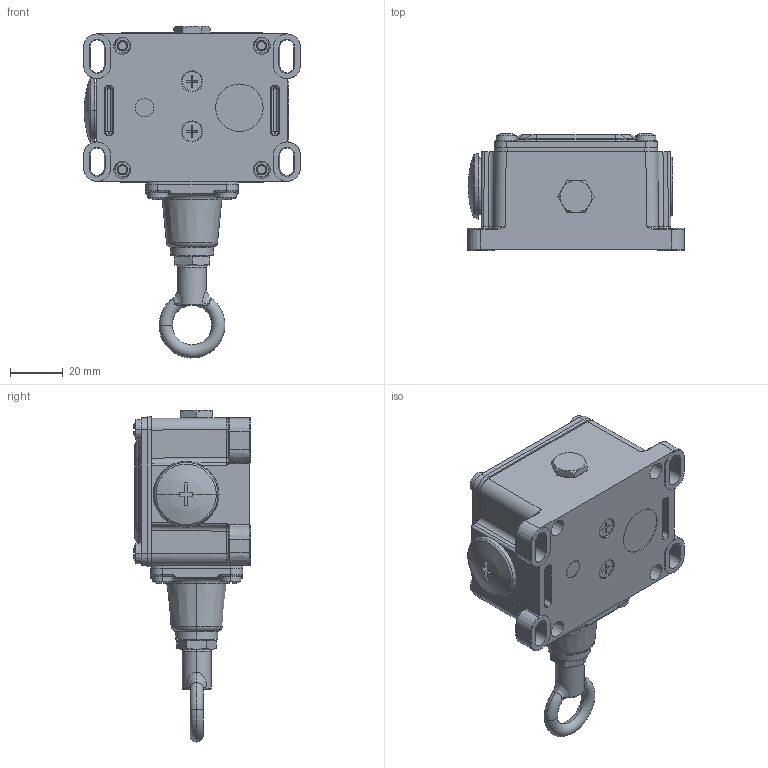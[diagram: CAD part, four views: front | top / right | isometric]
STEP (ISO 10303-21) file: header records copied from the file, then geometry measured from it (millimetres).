
FILE_DESCRIPTION((''),'2;1');
FILE_NAME('6011411856_ASM','2008-03-20T',('K.Falk'),(''),'PRO/ENGINEER BY PARAMETRIC TECHNOLOGY CORPORATION, 2005070','PRO/ENGINEER BY PARAMETRIC TECHNOLOGY CORPORATION, 2005070','');
FILE_SCHEMA(('AUTOMOTIVE_DESIGN_CC2 { 1 2 10303 214 -1 1 5 2 }'));
Length unit declared in the file: millimetre
Products named in the file (25): 3924110001_ASM; 2600562080; 3073701486; 3333300006; 3230750071; 3994000113_001; 3994000113_002; 3994000113_ASM; 2600085018_002; 2600085018_001; 2600085018_ASM; 2600963024; 3148800075; 3013975068; 2600085027; 3362300117; 2600439187; 2690000027; 3911410787_ASM; 2640000039_DI8; 3148800003; 3073101543; 2600085030; 3175100091; 6011411856_ASM
Assembly tree (32 placements, depth 3):
  6011411856_ASM
    3924110001_ASM
    2600562080  x2
    3073701486
    3333300006
    3230750071
    3994000113_ASM
      3994000113_001
      3994000113_002
    2600085018_ASM
      2600085018_002
      2600085018_001
    2600963024  x2
    3148800075
    3013975068
    2600085027  x4
    3362300117
    2600439187
    2690000027
    3911410787_ASM
    2640000039_DI8
    3148800003
    3073101543
    2600085030  x4
    3175100091
Bounding box: 82.2 x 44.53 x 125.99 mm (x, y, z)
Volume: 80163.2 mm3; surface area: 65999.6 mm2
Topology: 28 solids, 57 shells, 1628 faces, 3847 edges, 2288 vertices
Faces by surface type: plane 700, cylinder 392, cone 238, torus 150, bspline 124, sphere 24
Entity records: 50971 total; most frequent: CARTESIAN_POINT 13858, DIRECTION 5971, ORIENTED_EDGE 5682, EDGE_CURVE 2883, PRESENTATION_STYLE_ASSIGNMENT 2848, STYLED_ITEM 2848, CURVE_STYLE 2809, AXIS2_PLACEMENT_3D 2343
